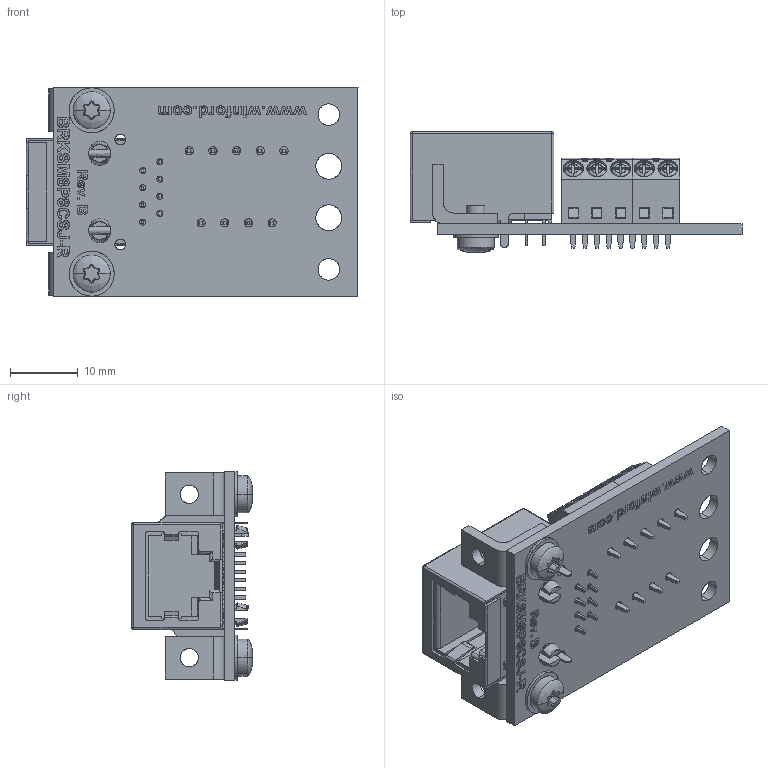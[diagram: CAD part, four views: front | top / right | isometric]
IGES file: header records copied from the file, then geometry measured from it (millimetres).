
Start section: SolidWorks IGES file using analytic representation for surfaces
Global section: file name: W:\end-user\products\brk\brksm\brksm8p8csj\3dmodel\rev_b\render\brksm8p8csj-r-p_rev_b.igs; native system: SolidWorks 2018; preprocessor: SolidWorks 2018; author: leviroy; date: 251118.084449; units: inch
Bounding box: 49.07 x 17.83 x 30.99 mm (x, y, z)
Surface area: 9469.4 mm2 (no closed solid volume)
Topology: 0 solids, 0 shells, 2412 faces, 20728 edges, 20720 vertices
Faces by surface type: bspline 2084, revolution 328
